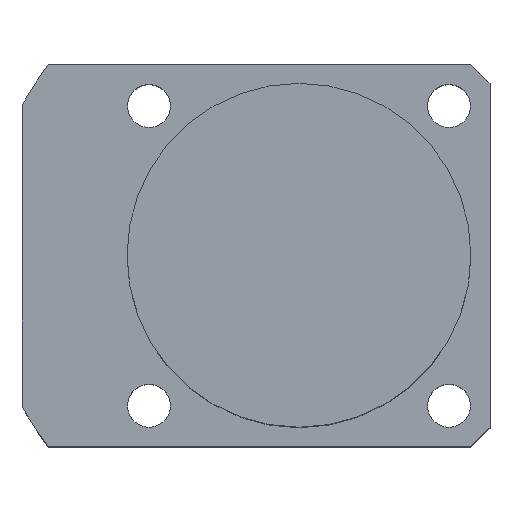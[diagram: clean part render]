
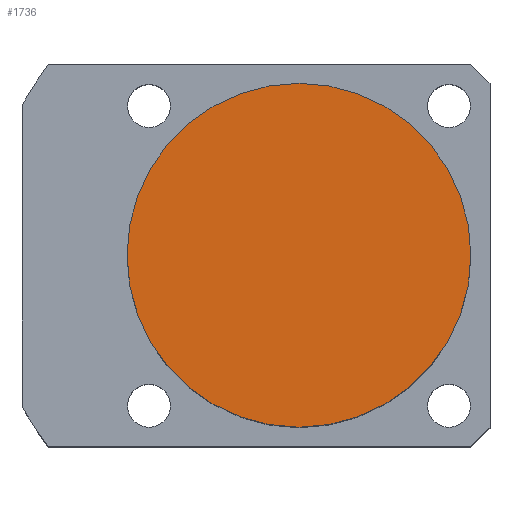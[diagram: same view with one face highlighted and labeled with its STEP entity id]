
A CAD part, top view. The second image highlights one B-rep face of the part: STEP entity #1736.
In plain terms, the highlighted planar face has unit normal (0, 0, 1).
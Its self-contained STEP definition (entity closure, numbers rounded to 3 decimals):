
#1678=CARTESIAN_POINT('',(-0.0,18.0,43.5));
#1679=VERTEX_POINT('',#1678);
#1686=CARTESIAN_POINT('',(18.0,0.0,43.5));
#1687=VERTEX_POINT('',#1686);
#1688=CARTESIAN_POINT('',(0.0,0.0,43.5));
#1689=DIRECTION('',(0.0,0.0,1.0));
#1690=DIRECTION('',(1.0,0.0,0.0));
#1691=AXIS2_PLACEMENT_3D('',#1688,#1689,#1690);
#1692=CIRCLE('',#1691,18.0);
#1693=EDGE_CURVE('no 2127',#1687,#1679,#1692,.T.);
#1695=CARTESIAN_POINT('',(-0.0,-18.0,43.5));
#1696=VERTEX_POINT('',#1695);
#1697=CARTESIAN_POINT('',(0.0,0.0,43.5));
#1698=DIRECTION('',(0.0,0.0,1.0));
#1699=DIRECTION('',(1.0,0.0,0.0));
#1700=AXIS2_PLACEMENT_3D('',#1697,#1698,#1699);
#1701=CIRCLE('',#1700,18.0);
#1702=EDGE_CURVE('no 2133',#1696,#1687,#1701,.T.);
#1720=ORIENTED_EDGE('',*,*,#1693,.T.);
#1721=CARTESIAN_POINT('',(0.0,0.0,43.5));
#1722=DIRECTION('',(0.0,0.0,1.0));
#1723=DIRECTION('',(1.0,0.0,0.0));
#1724=AXIS2_PLACEMENT_3D('',#1721,#1722,#1723);
#1725=CIRCLE('',#1724,18.0);
#1726=EDGE_CURVE('no 2150',#1679,#1696,#1725,.T.);
#1727=ORIENTED_EDGE('',*,*,#1726,.T.);
#1728=ORIENTED_EDGE('',*,*,#1702,.T.);
#1729=EDGE_LOOP('',(#1720,#1727,#1728));
#1730=FACE_OUTER_BOUND('',#1729,.T.);
#1731=CARTESIAN_POINT('',(0.0,0.0,43.5));
#1732=DIRECTION('',(0.0,0.0,1.0));
#1733=DIRECTION('',(1.0,0.0,0.0));
#1734=AXIS2_PLACEMENT_3D('',#1731,#1732,#1733);
#1735=PLANE('',#1734);
#1736=ADVANCED_FACE('no 2143',(#1730),#1735,.T.);
